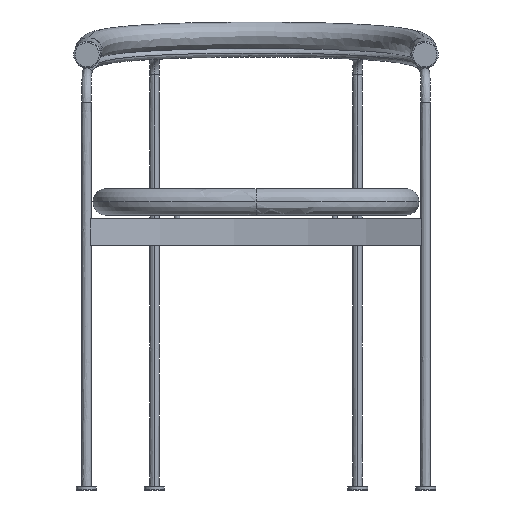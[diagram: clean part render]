
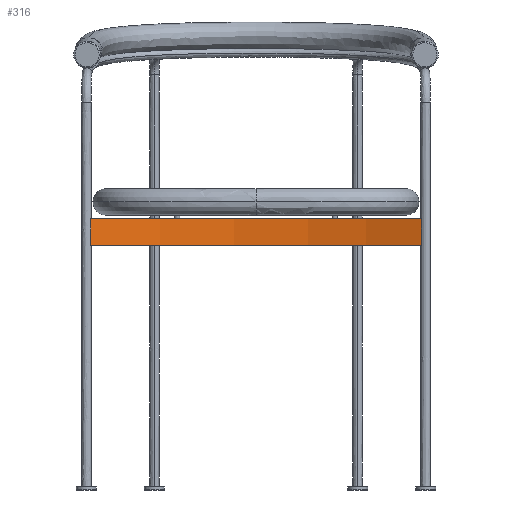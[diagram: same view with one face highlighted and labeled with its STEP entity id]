
A CAD part, front view. The second image highlights one B-rep face of the part: STEP entity #316.
In plain terms, the highlighted free-form (B-spline) face has degree [2, 1] with [3, 2] control points.
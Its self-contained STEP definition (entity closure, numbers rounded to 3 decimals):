
#316=ADVANCED_FACE('',(#460),#2125,.T.);
#460=FACE_OUTER_BOUND('',#609,.T.);
#609=EDGE_LOOP('',(#1132,#1133,#1134,#1135));
#1132=ORIENTED_EDGE('',*,*,#1472,.T.);
#1133=ORIENTED_EDGE('',*,*,#1481,.F.);
#1134=ORIENTED_EDGE('',*,*,#1473,.T.);
#1135=ORIENTED_EDGE('',*,*,#1480,.T.);
#1472=EDGE_CURVE('',#1971,#1972,#1782,.T.);
#1473=EDGE_CURVE('',#1973,#1974,#1783,.T.);
#1480=EDGE_CURVE('',#1974,#1971,#1790,.T.);
#1481=EDGE_CURVE('',#1973,#1972,#1791,.T.);
#1782=(
BOUNDED_CURVE()
B_SPLINE_CURVE(3,(#9084,#9085,#9086,#9087),.UNSPECIFIED.,.F.,.F.)
B_SPLINE_CURVE_WITH_KNOTS((4,4),(364.952,404.952),
 .UNSPECIFIED.)
CURVE()
GEOMETRIC_REPRESENTATION_ITEM()
RATIONAL_B_SPLINE_CURVE((1.,1.,1.,1.))
REPRESENTATION_ITEM('')
);
#1783=(
BOUNDED_CURVE()
B_SPLINE_CURVE(3,(#9088,#9089,#9090,#9091),.UNSPECIFIED.,.F.,.F.)
B_SPLINE_CURVE_WITH_KNOTS((4,4),(169.866,209.866),
 .UNSPECIFIED.)
CURVE()
GEOMETRIC_REPRESENTATION_ITEM()
RATIONAL_B_SPLINE_CURVE((1.,1.,1.,1.))
REPRESENTATION_ITEM('')
);
#1790=(
BOUNDED_CURVE()
B_SPLINE_CURVE(2,(#9118,#9119,#9120),.UNSPECIFIED.,.F.,.F.)
B_SPLINE_CURVE_WITH_KNOTS((3,3),(1063.964,1573.339),
 .UNSPECIFIED.)
CURVE()
GEOMETRIC_REPRESENTATION_ITEM()
RATIONAL_B_SPLINE_CURVE((1.,0.928,1.))
REPRESENTATION_ITEM('')
);
#1791=(
BOUNDED_CURVE()
B_SPLINE_CURVE(2,(#9121,#9122,#9123),.UNSPECIFIED.,.F.,.F.)
B_SPLINE_CURVE_WITH_KNOTS((3,3),(1063.964,1573.339),
 .UNSPECIFIED.)
CURVE()
GEOMETRIC_REPRESENTATION_ITEM()
RATIONAL_B_SPLINE_CURVE((1.,0.928,1.))
REPRESENTATION_ITEM('')
);
#1971=VERTEX_POINT('',#9072);
#1972=VERTEX_POINT('',#9073);
#1973=VERTEX_POINT('',#9074);
#1974=VERTEX_POINT('',#9075);
#2125=(
BOUNDED_SURFACE()
B_SPLINE_SURFACE(2,1,((#8988,#8989),(#8990,#8991),(#8992,#8993)),
 .UNSPECIFIED.,.F.,.F.,.F.)
B_SPLINE_SURFACE_WITH_KNOTS((3,3),(2,2),(1058.922,1578.383),
(0.,40.),.UNSPECIFIED.)
GEOMETRIC_REPRESENTATION_ITEM()
RATIONAL_B_SPLINE_SURFACE(((1.,1.),(0.925,0.925),
(1.,1.)))
REPRESENTATION_ITEM('')
SURFACE()
);
#8988=CARTESIAN_POINT('',(-251.297,-193.185,364.952));
#8989=CARTESIAN_POINT('',(-251.297,-193.185,404.952));
#8990=CARTESIAN_POINT('',(0.001,-89.911,364.952));
#8991=CARTESIAN_POINT('',(0.001,-89.911,404.952));
#8992=CARTESIAN_POINT('',(251.299,-193.185,364.952));
#8993=CARTESIAN_POINT('',(251.299,-193.185,404.952));
#9072=CARTESIAN_POINT('',(246.775,-191.345,364.952));
#9073=CARTESIAN_POINT('',(246.775,-191.345,404.952));
#9074=CARTESIAN_POINT('',(-246.775,-191.346,404.952));
#9075=CARTESIAN_POINT('',(-246.775,-191.346,364.952));
#9084=CARTESIAN_POINT('',(246.775,-191.345,364.952));
#9085=CARTESIAN_POINT('',(246.775,-191.345,378.285));
#9086=CARTESIAN_POINT('',(246.775,-191.345,391.619));
#9087=CARTESIAN_POINT('',(246.775,-191.345,404.952));
#9088=CARTESIAN_POINT('',(-246.775,-191.346,404.952));
#9089=CARTESIAN_POINT('',(-246.775,-191.346,391.619));
#9090=CARTESIAN_POINT('',(-246.775,-191.346,378.285));
#9091=CARTESIAN_POINT('',(-246.775,-191.346,364.952));
#9118=CARTESIAN_POINT('',(-246.775,-191.346,364.952));
#9119=CARTESIAN_POINT('',(0.,-92.055,364.952));
#9120=CARTESIAN_POINT('',(246.775,-191.345,364.952));
#9121=CARTESIAN_POINT('',(-246.775,-191.346,404.952));
#9122=CARTESIAN_POINT('',(0.,-92.055,404.952));
#9123=CARTESIAN_POINT('',(246.775,-191.345,404.952));
